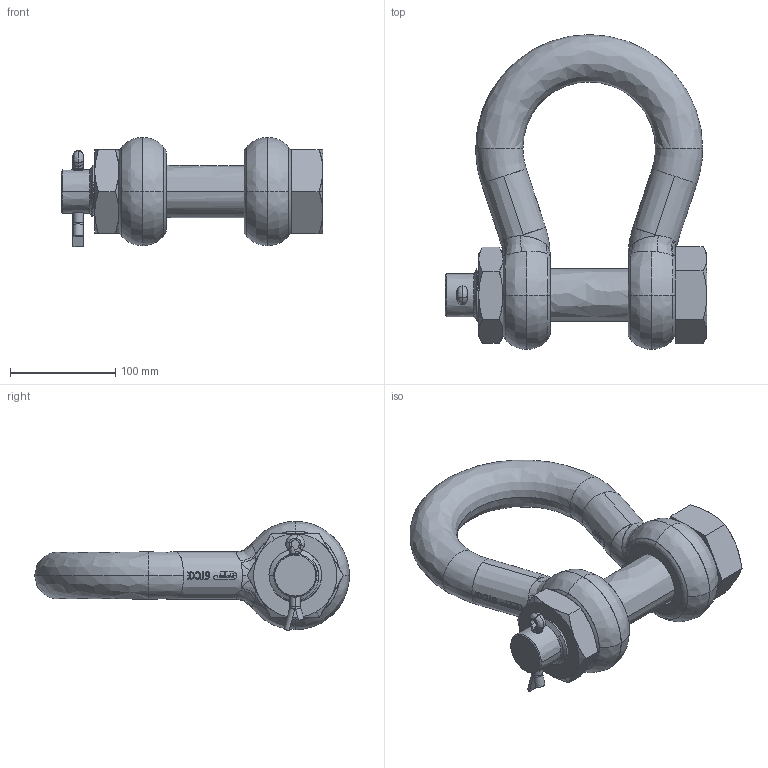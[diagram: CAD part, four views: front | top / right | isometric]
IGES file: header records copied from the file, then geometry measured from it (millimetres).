
Start section: START RECORD GO HERE.
Global section: file name: 25.igs; native system: Solidworks 2009            ion 5 Release 17 ; preprocessor: CATIA Version 5 Release 17 ; author: v.b.; organization: P4; date: 20090807.082349; units: millimetre
Bounding box: 249 x 299.5 x 103.87 mm (x, y, z)
Surface area: 199694.3 mm2 (no closed solid volume)
Topology: 0 solids, 0 shells, 825 faces, 5322 edges, 5314 vertices
Faces by surface type: bspline 346, plane 309, revolution 170
